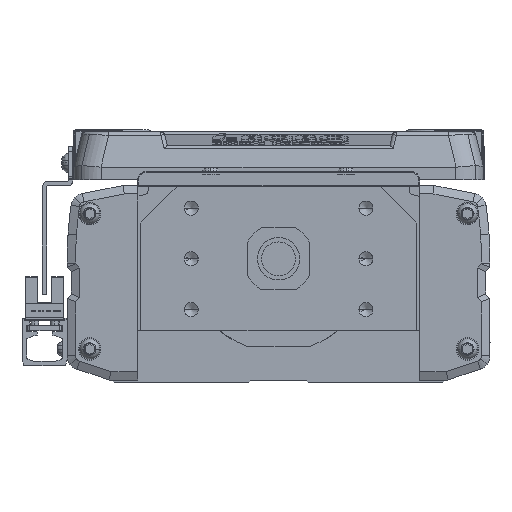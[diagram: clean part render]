
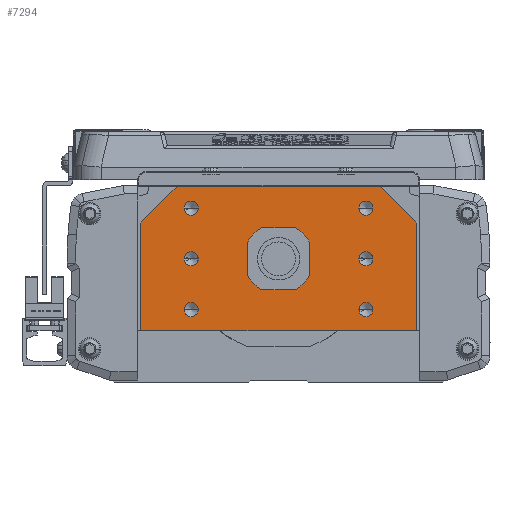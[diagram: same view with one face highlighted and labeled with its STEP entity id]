
A CAD part, left-side view. The second image highlights one B-rep face of the part: STEP entity #7294.
In plain terms, the highlighted planar face has unit normal (-1, 0, 0).
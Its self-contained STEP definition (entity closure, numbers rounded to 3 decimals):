
#7294=ADVANCED_FACE('',(#14885,#14886,#14887,#14888,#14889,#14890,#14891,#14892),#14893,.F.);
#14885=FACE_OUTER_BOUND('',#24229,.T.);
#14886=FACE_BOUND('',#24230,.T.);
#14887=FACE_BOUND('',#24231,.T.);
#14888=FACE_BOUND('',#24232,.T.);
#14889=FACE_BOUND('',#24233,.T.);
#14890=FACE_BOUND('',#24234,.T.);
#14891=FACE_BOUND('',#24235,.T.);
#14892=FACE_BOUND('',#24236,.T.);
#14893=PLANE('',#24237);
#24229=EDGE_LOOP('',(#44668,#44669,#44670,#44671,#44672,#44673,#44674,#44675));
#24230=EDGE_LOOP('',(#44676,#44677));
#24231=EDGE_LOOP('',(#44678,#44679));
#24232=EDGE_LOOP('',(#44680,#44681));
#24233=EDGE_LOOP('',(#44682,#44683));
#24234=EDGE_LOOP('',(#44684,#44685));
#24235=EDGE_LOOP('',(#44686,#44687));
#24236=EDGE_LOOP('',(#44688,#44689));
#24237=AXIS2_PLACEMENT_3D('',#44690,#44691,#44692);
#44668=ORIENTED_EDGE('',*,*,#54366,.F.);
#44669=ORIENTED_EDGE('',*,*,#52737,.F.);
#44670=ORIENTED_EDGE('',*,*,#53131,.F.);
#44671=ORIENTED_EDGE('',*,*,#54703,.F.);
#44672=ORIENTED_EDGE('',*,*,#55166,.F.);
#44673=ORIENTED_EDGE('',*,*,#53463,.F.);
#44674=ORIENTED_EDGE('',*,*,#51246,.F.);
#44675=ORIENTED_EDGE('',*,*,#53640,.F.);
#44676=ORIENTED_EDGE('',*,*,#54568,.T.);
#44677=ORIENTED_EDGE('',*,*,#55954,.T.);
#44678=ORIENTED_EDGE('',*,*,#51667,.T.);
#44679=ORIENTED_EDGE('',*,*,#52402,.T.);
#44680=ORIENTED_EDGE('',*,*,#48027,.T.);
#44681=ORIENTED_EDGE('',*,*,#49818,.T.);
#44682=ORIENTED_EDGE('',*,*,#55998,.T.);
#44683=ORIENTED_EDGE('',*,*,#51463,.T.);
#44684=ORIENTED_EDGE('',*,*,#49020,.T.);
#44685=ORIENTED_EDGE('',*,*,#53118,.T.);
#44686=ORIENTED_EDGE('',*,*,#50067,.T.);
#44687=ORIENTED_EDGE('',*,*,#54705,.T.);
#44688=ORIENTED_EDGE('',*,*,#55888,.F.);
#44689=ORIENTED_EDGE('',*,*,#53720,.F.);
#44690=CARTESIAN_POINT('',(0.,0.275,-2.548));
#44691=DIRECTION('',(1.0,0.,0.));
#44692=DIRECTION('',(0.,1.0,0.));
#48027=EDGE_CURVE('',#57038,#57042,#57044,.T.);
#49020=EDGE_CURVE('',#58818,#58821,#58823,.T.);
#49818=EDGE_CURVE('',#57042,#57038,#60182,.T.);
#50067=EDGE_CURVE('',#60585,#60589,#60591,.T.);
#51246=EDGE_CURVE('',#62478,#62479,#62480,.T.);
#51463=EDGE_CURVE('',#62825,#62823,#62826,.T.);
#51667=EDGE_CURVE('',#63141,#63143,#63145,.T.);
#52402=EDGE_CURVE('',#63143,#63141,#64248,.T.);
#52737=EDGE_CURVE('',#64727,#64723,#64729,.T.);
#53118=EDGE_CURVE('',#58821,#58818,#65286,.T.);
#53131=EDGE_CURVE('',#65304,#64727,#65306,.T.);
#53463=EDGE_CURVE('',#62479,#65773,#65774,.T.);
#53640=EDGE_CURVE('',#65998,#62478,#66001,.T.);
#53720=EDGE_CURVE('',#66103,#66105,#66106,.F.);
#54366=EDGE_CURVE('',#64723,#65998,#66961,.T.);
#54568=EDGE_CURVE('',#67232,#67235,#67237,.T.);
#54703=EDGE_CURVE('',#67402,#65304,#67404,.T.);
#54705=EDGE_CURVE('',#60589,#60585,#67406,.T.);
#55166=EDGE_CURVE('',#65773,#67402,#67960,.T.);
#55888=EDGE_CURVE('',#66105,#66103,#68762,.F.);
#55954=EDGE_CURVE('',#67235,#67232,#68835,.T.);
#55998=EDGE_CURVE('',#62823,#62825,#68880,.T.);
#57038=VERTEX_POINT('',#70098);
#57042=VERTEX_POINT('',#70103);
#57044=CIRCLE('',#70106,2.5);
#58818=VERTEX_POINT('',#72467);
#58821=VERTEX_POINT('',#72471);
#58823=CIRCLE('',#72474,2.5);
#60182=CIRCLE('',#74330,2.5);
#60585=VERTEX_POINT('',#74876);
#60589=VERTEX_POINT('',#74881);
#60591=CIRCLE('',#74884,2.5);
#62478=VERTEX_POINT('',#77522);
#62479=VERTEX_POINT('',#77523);
#62480=LINE('',#77524,#77525);
#62823=VERTEX_POINT('',#78063);
#62825=VERTEX_POINT('',#78066);
#62826=CIRCLE('',#78067,2.5);
#63141=VERTEX_POINT('',#78505);
#63143=VERTEX_POINT('',#78508);
#63145=CIRCLE('',#78511,2.5);
#64248=CIRCLE('',#80066,2.5);
#64723=VERTEX_POINT('',#80714);
#64727=VERTEX_POINT('',#80720);
#64729=LINE('',#80723,#80724);
#65286=CIRCLE('',#81464,2.5);
#65304=VERTEX_POINT('',#81488);
#65306=LINE('',#81491,#81492);
#65773=VERTEX_POINT('',#82119);
#65774=LINE('',#82120,#82121);
#65998=VERTEX_POINT('',#82516);
#66001=LINE('',#82520,#82521);
#66103=VERTEX_POINT('',#82658);
#66105=VERTEX_POINT('',#82661);
#66106=CIRCLE('',#82662,7.5);
#66961=LINE('',#83986,#83987);
#67232=VERTEX_POINT('',#84359);
#67235=VERTEX_POINT('',#84363);
#67237=CIRCLE('',#84366,2.5);
#67402=VERTEX_POINT('',#84606);
#67404=LINE('',#84609,#84610);
#67406=CIRCLE('',#84612,2.5);
#67960=LINE('',#85455,#85456);
#68762=CIRCLE('',#86671,7.5);
#68835=CIRCLE('',#86797,2.5);
#68880=CIRCLE('',#86850,2.5);
#70098=CARTESIAN_POINT('',(0.,33.5,18.));
#70103=CARTESIAN_POINT('',(0.,28.5,18.));
#70106=AXIS2_PLACEMENT_3D('',#87982,#87983,#87984);
#72467=CARTESIAN_POINT('',(0.,33.5,0.));
#72471=CARTESIAN_POINT('',(0.,28.5,0.));
#72474=AXIS2_PLACEMENT_3D('',#89438,#89439,#89440);
#74330=AXIS2_PLACEMENT_3D('',#90507,#90508,#90509);
#74876=CARTESIAN_POINT('',(0.,-33.5,0.));
#74881=CARTESIAN_POINT('',(0.,-28.5,0.));
#74884=AXIS2_PLACEMENT_3D('',#90826,#90827,#90828);
#77522=CARTESIAN_POINT('',(0.,-36.,25.7));
#77523=CARTESIAN_POINT('',(0.,-49.,12.7));
#77524=CARTESIAN_POINT('',(0.,-37.243,24.457));
#77525=VECTOR('',#92403,10.0);
#78063=CARTESIAN_POINT('',(0.,-33.5,18.));
#78066=CARTESIAN_POINT('',(0.,-28.5,18.));
#78067=AXIS2_PLACEMENT_3D('',#92676,#92677,#92678);
#78505=CARTESIAN_POINT('',(0.,-33.5,-18.));
#78508=CARTESIAN_POINT('',(0.,-28.5,-18.));
#78511=AXIS2_PLACEMENT_3D('',#92960,#92961,#92962);
#80066=AXIS2_PLACEMENT_3D('',#93875,#93876,#93877);
#80714=CARTESIAN_POINT('',(0.,49.,12.7));
#80720=CARTESIAN_POINT('',(0.,49.,-25.));
#80723=CARTESIAN_POINT('',(0.,49.,-25.));
#80724=VECTOR('',#94285,10.0);
#81464=AXIS2_PLACEMENT_3D('',#94791,#94792,#94793);
#81488=CARTESIAN_POINT('',(0.,48.5,-25.5));
#81491=CARTESIAN_POINT('',(0.,48.5,-25.5));
#81492=VECTOR('',#94807,10.0);
#82119=CARTESIAN_POINT('',(0.,-49.,-25.));
#82120=CARTESIAN_POINT('',(0.,-49.,-14.));
#82121=VECTOR('',#95205,10.0);
#82516=CARTESIAN_POINT('',(0.,36.,25.7));
#82520=CARTESIAN_POINT('',(0.,34.5,25.7));
#82521=VECTOR('',#95409,10.0);
#82658=CARTESIAN_POINT('',(0.,-7.5,0.));
#82661=CARTESIAN_POINT('',(0.,7.5,0.));
#82662=AXIS2_PLACEMENT_3D('',#95497,#95498,#95499);
#83986=CARTESIAN_POINT('',(0.,37.381,24.319));
#83987=VECTOR('',#96247,10.);
#84359=CARTESIAN_POINT('',(0.,33.5,-18.));
#84363=CARTESIAN_POINT('',(0.,28.5,-18.));
#84366=AXIS2_PLACEMENT_3D('',#96496,#96497,#96498);
#84606=CARTESIAN_POINT('',(0.,-48.5,-25.5));
#84609=CARTESIAN_POINT('',(0.,0.,-25.5));
#84610=VECTOR('',#96647,10.0);
#84612=AXIS2_PLACEMENT_3D('',#96648,#96649,#96650);
#85455=CARTESIAN_POINT('',(0.,-49.,-25.));
#85456=VECTOR('',#97145,10.0);
#86671=AXIS2_PLACEMENT_3D('',#97836,#97837,#97838);
#86797=AXIS2_PLACEMENT_3D('',#97901,#97902,#97903);
#86850=AXIS2_PLACEMENT_3D('',#97933,#97934,#97935);
#87982=CARTESIAN_POINT('',(0.,31.,18.));
#87983=DIRECTION('',(1.0,0.,0.));
#87984=DIRECTION('',(0.,1.0,0.));
#89438=CARTESIAN_POINT('',(0.,31.,0.));
#89439=DIRECTION('',(1.0,0.,0.));
#89440=DIRECTION('',(0.,1.0,0.));
#90507=CARTESIAN_POINT('',(0.,31.,18.));
#90508=DIRECTION('',(1.0,0.,0.));
#90509=DIRECTION('',(0.,1.0,0.));
#90826=CARTESIAN_POINT('',(0.,-31.,0.));
#90827=DIRECTION('',(1.0,0.,0.));
#90828=DIRECTION('',(0.,-1.0,0.));
#92403=DIRECTION('',(0.,-0.707,-0.707));
#92676=CARTESIAN_POINT('',(0.,-31.,18.));
#92677=DIRECTION('',(1.0,0.,0.));
#92678=DIRECTION('',(0.,-1.0,0.));
#92960=CARTESIAN_POINT('',(0.,-31.,-18.));
#92961=DIRECTION('',(1.0,0.,0.));
#92962=DIRECTION('',(0.,-1.0,0.));
#93875=CARTESIAN_POINT('',(0.,-31.,-18.));
#93876=DIRECTION('',(1.0,0.,0.));
#93877=DIRECTION('',(0.,-1.0,0.));
#94285=DIRECTION('',(0.,0.,1.0));
#94791=CARTESIAN_POINT('',(0.,31.,0.));
#94792=DIRECTION('',(1.0,0.,0.));
#94793=DIRECTION('',(0.,1.0,0.));
#94807=DIRECTION('',(0.,0.707,0.707));
#95205=DIRECTION('',(0.,0.,-1.0));
#95409=DIRECTION('',(0.,-1.0,0.));
#95497=CARTESIAN_POINT('',(0.,0.,0.));
#95498=DIRECTION('',(1.0,0.,0.));
#95499=DIRECTION('',(0.,-1.0,0.));
#96247=DIRECTION('',(0.,-0.707,0.707));
#96496=CARTESIAN_POINT('',(0.,31.,-18.));
#96497=DIRECTION('',(1.0,0.,0.));
#96498=DIRECTION('',(0.,1.0,0.));
#96647=DIRECTION('',(0.,1.0,0.));
#96648=CARTESIAN_POINT('',(0.,-31.,0.));
#96649=DIRECTION('',(1.0,0.,0.));
#96650=DIRECTION('',(0.,-1.0,0.));
#97145=DIRECTION('',(0.,0.707,-0.707));
#97836=CARTESIAN_POINT('',(0.,0.,0.));
#97837=DIRECTION('',(1.0,0.,0.));
#97838=DIRECTION('',(0.,-1.0,0.));
#97901=CARTESIAN_POINT('',(0.,31.,-18.));
#97902=DIRECTION('',(1.0,0.,0.));
#97903=DIRECTION('',(0.,1.0,0.));
#97933=CARTESIAN_POINT('',(0.,-31.,18.));
#97934=DIRECTION('',(1.0,0.,0.));
#97935=DIRECTION('',(0.,-1.0,0.));
